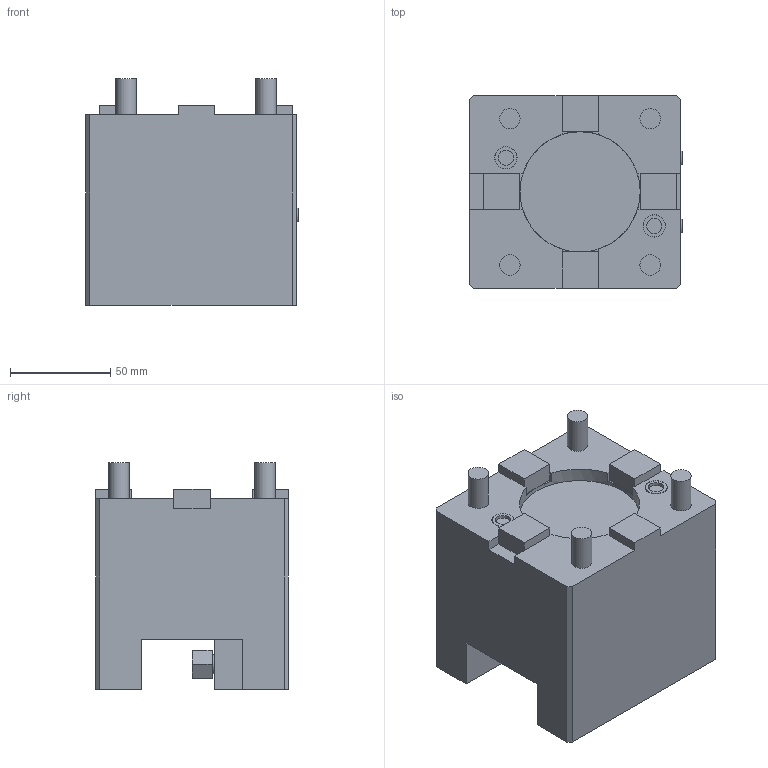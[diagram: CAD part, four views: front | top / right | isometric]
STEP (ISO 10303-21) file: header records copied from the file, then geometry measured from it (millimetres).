
FILE_DESCRIPTION(/* description */ (''),/* implementation_level */ '2;1');
FILE_NAME(/* name */ '197964-UNI',/* time_stamp */ '2022-01-10T11:57:19+01:00',/* author */ (''),/* organization */ (''),/* preprocessor_version */ 'ST-DEVELOPER v16.5',/* originating_system */ 'HiCAD 2017 2201.0 Build 268',/* authorisation */ '');
FILE_SCHEMA (('AUTOMOTIVE_DESIGN { 1 0 10303 214 1 1 1 1 }'));
Length unit declared in the file: millimetre
Products named in the file (2): Root; Teil
Assembly tree (1 placements, depth 2):
  Root
    Teil
Bounding box: 105.95 x 96 x 113 mm (x, y, z)
Volume: 845250.7 mm3; surface area: 75669.3 mm2
Topology: 1 solids, 1 shells, 193 faces, 443 edges, 282 vertices
Faces by surface type: plane 156, cylinder 24, cone 7, torus 4, sphere 2
Full cylindrical faces by diameter (mm): 6 x2, 7.65 x2, 9.6 x3, 10.2 x4, 11.01 x2, 11.1 x2, 18 x4, 20 x4, 60 x1
Entity records: 9117 total; most frequent: DIRECTION 898, CARTESIAN_POINT 865, PRESENTATION_STYLE_ASSIGNMENT 793, COLOUR_RGB 793, DRAUGHTING_PRE_DEFINED_CURVE_FONT 792, CURVE_STYLE 792, OVER_RIDING_STYLED_ITEM 792, ORIENTED_EDGE 792
